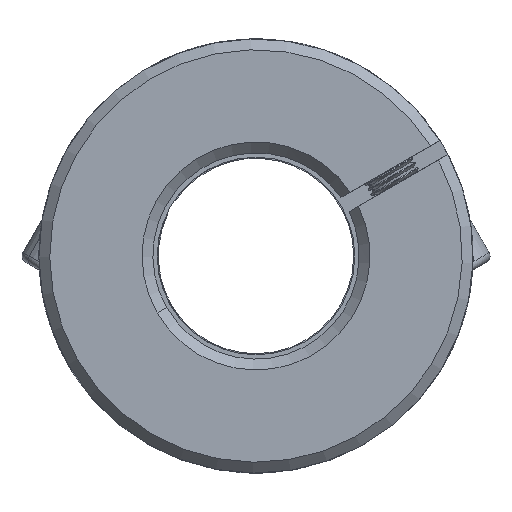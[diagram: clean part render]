
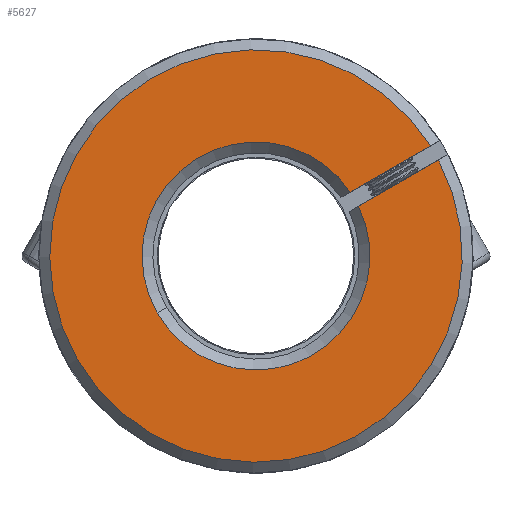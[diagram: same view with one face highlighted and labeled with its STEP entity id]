
A CAD part, front view. The second image highlights one B-rep face of the part: STEP entity #5627.
In plain terms, the highlighted planar face has unit normal (0, -1, 0).
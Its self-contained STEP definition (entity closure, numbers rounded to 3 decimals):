
#70 = ORIENTED_EDGE ( 'NONE', *, *, #12269, .F. ) ;
#241 = ORIENTED_EDGE ( 'NONE', *, *, #8438, .T. ) ;
#1456 = EDGE_LOOP ( 'NONE', ( #1492, #5386, #241, #70, #5196 ) ) ;
#1492 = ORIENTED_EDGE ( 'NONE', *, *, #2244, .F. ) ;
#1772 = VECTOR ( 'NONE', #4121, 1000. ) ;
#2153 = AXIS2_PLACEMENT_3D ( 'NONE', #5927, #11254, #7985 ) ;
#2244 = EDGE_CURVE ( 'NONE', #11920, #7392, #10174, .T. ) ;
#2590 = PLANE ( 'NONE',  #10676 ) ;
#3125 = CIRCLE ( 'NONE', #2153, 10.5 ) ;
#3680 = DIRECTION ( 'NONE',  ( 0.5, 0., -0.866 ) ) ;
#3974 = CARTESIAN_POINT ( 'NONE',  ( 7.246, -31.239, 45.889 ) ) ;
#4121 = DIRECTION ( 'NONE',  ( 0.866, 0., 0.5 ) ) ;
#4408 = EDGE_CURVE ( 'NONE', #11920, #8949, #7107, .T. ) ;
#4535 = VECTOR ( 'NONE', #9313, 1000. ) ;
#4686 = CARTESIAN_POINT ( 'NONE',  ( 14.616, -31.239, 50.147 ) ) ;
#4759 = DIRECTION ( 'NONE',  ( 0., 1., 0. ) ) ;
#4935 = VERTEX_POINT ( 'NONE', #3974 ) ;
#5196 = ORIENTED_EDGE ( 'NONE', *, *, #7297, .T. ) ;
#5386 = ORIENTED_EDGE ( 'NONE', *, *, #4408, .T. ) ;
#5409 = CARTESIAN_POINT ( 'NONE',  ( -1.447, -31.239, 40. ) ) ;
#5627 = ADVANCED_FACE ( 'NONE', ( #9264 ), #2590, .F. ) ;
#5794 = DIRECTION ( 'NONE',  ( 0.5, 0., -0.866 ) ) ;
#5927 = CARTESIAN_POINT ( 'NONE',  ( -1.447, -31.239, 40. ) ) ;
#6036 = CARTESIAN_POINT ( 'NONE',  ( 15.367, -31.239, 48.848 ) ) ;
#6066 = CARTESIAN_POINT ( 'NONE',  ( 6.378, -31.239, 45.387 ) ) ;
#7107 = CIRCLE ( 'NONE', #7423, 10.5 ) ;
#7297 = EDGE_CURVE ( 'NONE', #7910, #7392, #10069, .T. ) ;
#7392 = VERTEX_POINT ( 'NONE', #6036 ) ;
#7423 = AXIS2_PLACEMENT_3D ( 'NONE', #5409, #7472, #8451 ) ;
#7472 = DIRECTION ( 'NONE',  ( 0., 1., 0. ) ) ;
#7910 = VERTEX_POINT ( 'NONE', #4686 ) ;
#7985 = DIRECTION ( 'NONE',  ( 0.5, 0., -0.866 ) ) ;
#8105 = CARTESIAN_POINT ( 'NONE',  ( -1.447, -31.239, 40. ) ) ;
#8438 = EDGE_CURVE ( 'NONE', #8949, #4935, #3125, .T. ) ;
#8451 = DIRECTION ( 'NONE',  ( 0.5, 0., -0.866 ) ) ;
#8617 = CARTESIAN_POINT ( 'NONE',  ( 7.997, -31.239, 44.59 ) ) ;
#8949 = VERTEX_POINT ( 'NONE', #10920 ) ;
#9147 = AXIS2_PLACEMENT_3D ( 'NONE', #8105, #12262, #5794 ) ;
#9264 = FACE_OUTER_BOUND ( 'NONE', #1456, .T. ) ;
#9313 = DIRECTION ( 'NONE',  ( -0.866, 0., -0.5 ) ) ;
#10069 = CIRCLE ( 'NONE', #9147, 19. ) ;
#10105 = CARTESIAN_POINT ( 'NONE',  ( 52.98, -31.239, 45.743 ) ) ;
#10174 = LINE ( 'NONE', #10516, #1772 ) ;
#10240 = LINE ( 'NONE', #6066, #4535 ) ;
#10516 = CARTESIAN_POINT ( 'NONE',  ( 7.128, -31.239, 44.088 ) ) ;
#10676 = AXIS2_PLACEMENT_3D ( 'NONE', #10105, #4759, #3680 ) ;
#10920 = CARTESIAN_POINT ( 'NONE',  ( -10.539, -31.239, 34.747 ) ) ;
#11254 = DIRECTION ( 'NONE',  ( 0., 1., 0. ) ) ;
#11920 = VERTEX_POINT ( 'NONE', #8617 ) ;
#12262 = DIRECTION ( 'NONE',  ( 0., -1., 0. ) ) ;
#12269 = EDGE_CURVE ( 'NONE', #7910, #4935, #10240, .T. ) ;
